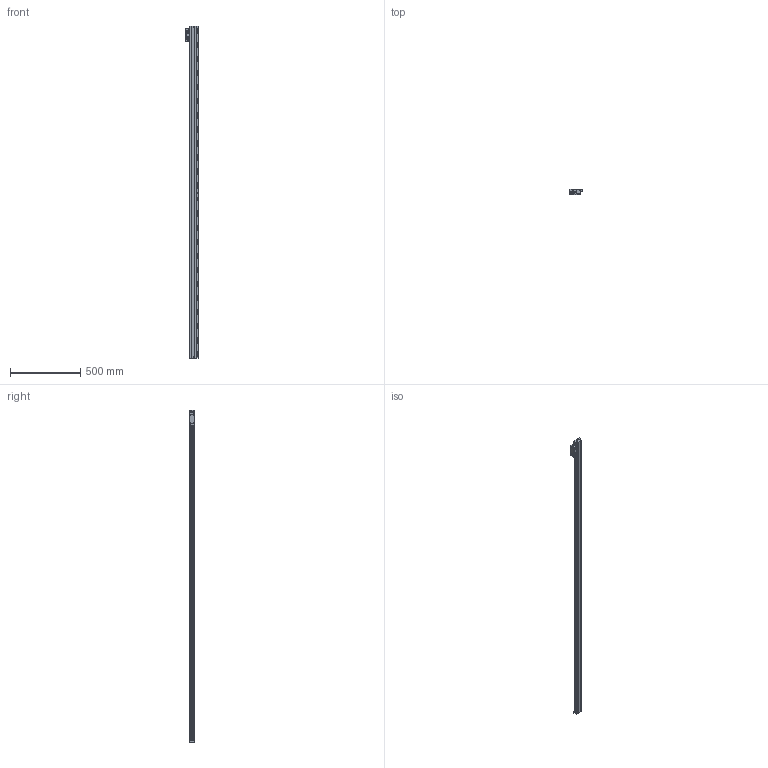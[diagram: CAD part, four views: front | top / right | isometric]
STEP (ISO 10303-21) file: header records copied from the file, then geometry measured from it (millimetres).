
FILE_DESCRIPTION(/* description */ (''),/* implementation_level */ '2;1');
FILE_NAME(/* name */ 'JC21A-2240-1.stp',/* time_stamp */ '2023-12-21T17:04:11+08:00',/* author */ (''),/* organization */ (''),/* preprocessor_version */ 'ST-DEVELOPER v14',/* originating_system */ 'SIEMENS PLM Software NX 8.0',/* authorisation */ '');
FILE_SCHEMA (('CONFIG_CONTROL_DESIGN'));
Length unit declared in the file: millimetre
Products named in the file (1): JC21A-2240-1
Bounding box: 87.5 x 37 x 2361 mm (x, y, z)
Volume: 3683762.9 mm3; surface area: 597764.2 mm2
Topology: 4 solids, 6 shells, 1299 faces, 3888 edges, 2589 vertices
Faces by surface type: plane 814, cylinder 453, cone 22, bspline 8, extrusion 2
Full cylindrical faces by diameter (mm): 2.5 x12, 3.3 x6, 3.7 x4, 4.2 x4, 5 x2, 6 x6, 6.6 x2, 6.8 x26, 7 x2, 13.2 x2
Entity records: 44715 total; most frequent: CARTESIAN_POINT 9099, ORIENTED_EDGE 7516, DIRECTION 7406, EDGE_CURVE 3758, VERTEX_POINT 2547, AXIS2_PLACEMENT_3D 2483, VECTOR 2440, LINE 2438
